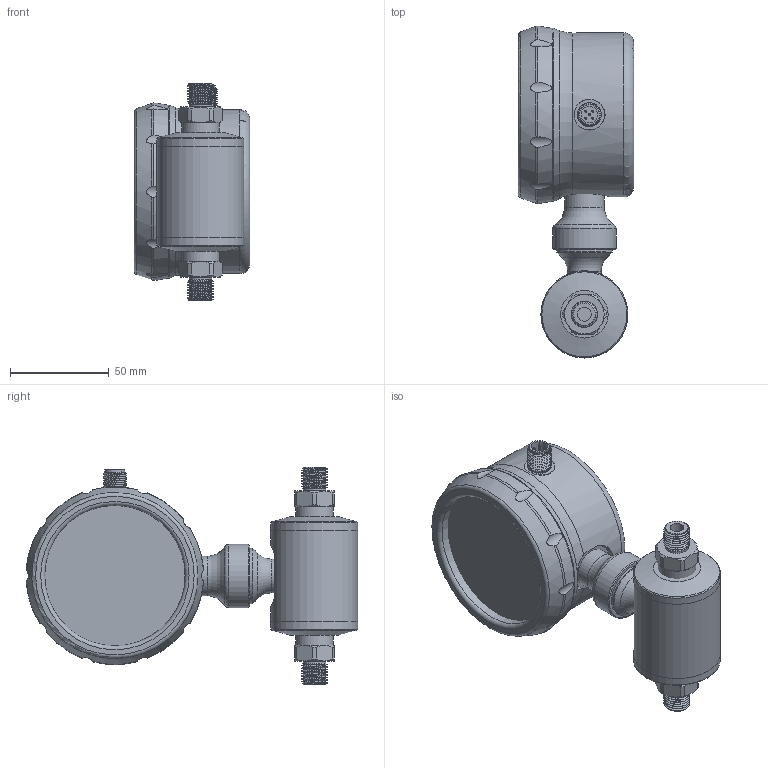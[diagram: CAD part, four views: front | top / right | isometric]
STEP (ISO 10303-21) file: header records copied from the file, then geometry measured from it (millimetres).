
FILE_DESCRIPTION( (''), '2;1');
FILE_NAME( 'QMKD_DN4_H25.4_male-thread.step', '2024-08-30T09:31:41+08:00', (''), (''), '', '', '');
FILE_SCHEMA (('AUTOMOTIVE_DESIGN { 1 0 10303 214 3 1 1 1 }'));
Length unit declared in the file: millimetre
Products named in the file (1): QMKD DN4_H25.4_male-thread
Bounding box: 58.5 x 167.81 x 110 mm (x, y, z)
Volume: 445499.1 mm3; surface area: 81125.6 mm2
Topology: 11 solids, 11 shells, 268 faces, 646 edges, 412 vertices
Faces by surface type: cylinder 108, plane 57, cone 49, sphere 20, torus 18, bspline 16
Full cylindrical faces by diameter (mm): 7 x2, 11.445 x18, 11.6 x2, 15 x2, 15.5 x1, 17 x1, 18 x2, 19 x2, 20 x1, 26 x1, 28 x1, 32 x1, 38 x2, 44 x3, 71 x1, 80 x2, 83 x1
Entity records: 11979 total; most frequent: CARTESIAN_POINT 6760, DIRECTION 1031, ORIENTED_EDGE 992, EDGE_CURVE 496, AXIS2_PLACEMENT_3D 479, VERTEX_POINT 347, EDGE_LOOP 337, ADVANCED_FACE 251
